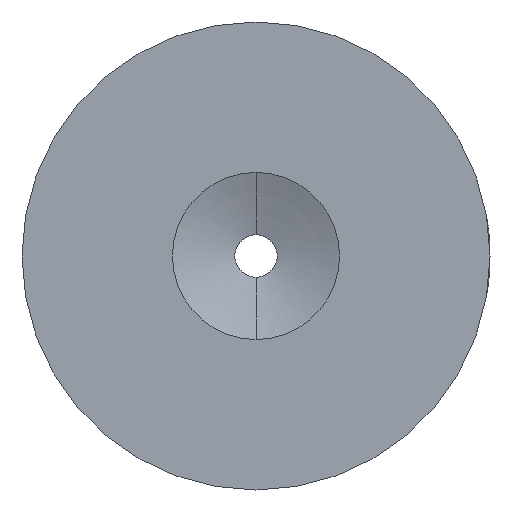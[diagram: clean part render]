
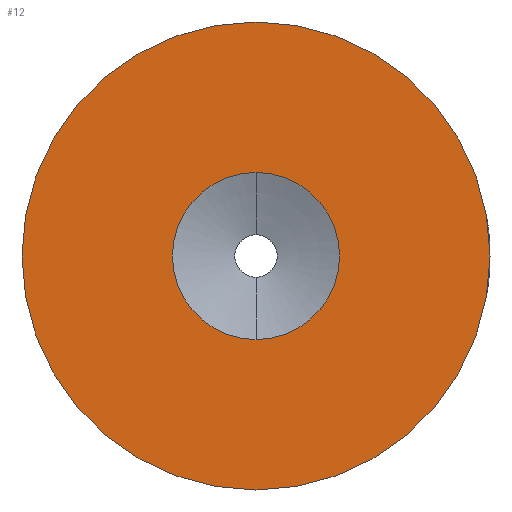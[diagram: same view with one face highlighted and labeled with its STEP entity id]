
A CAD part, left-side view. The second image highlights one B-rep face of the part: STEP entity #12.
In plain terms, the highlighted planar face has unit normal (-1, 0, 0).
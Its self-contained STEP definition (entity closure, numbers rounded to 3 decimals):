
#6 = PLANE ( 'NONE',  #502 ) ;
#12 = ADVANCED_FACE ( 'NONE', ( #427, #382 ), #6, .F. ) ;
#52 = EDGE_CURVE ( 'NONE', #416, #496, #395, .T. ) ;
#70 = CARTESIAN_POINT ( 'NONE',  ( 0., 1.25, 0. ) ) ;
#90 = CARTESIAN_POINT ( 'NONE',  ( 0., 0., 0. ) ) ;
#91 = DIRECTION ( 'NONE',  ( 1., 0., 0. ) ) ;
#109 = CARTESIAN_POINT ( 'NONE',  ( 0., 0., 14. ) ) ;
#110 = CARTESIAN_POINT ( 'NONE',  ( 0., 0., -14. ) ) ;
#113 = ORIENTED_EDGE ( 'NONE', *, *, #303, .T. ) ;
#136 = AXIS2_PLACEMENT_3D ( 'NONE', #269, #456, #417 ) ;
#148 = EDGE_CURVE ( 'NONE', #222, #270, #441, .T. ) ;
#167 = DIRECTION ( 'NONE',  ( -1., 0., 0. ) ) ;
#175 = DIRECTION ( 'NONE',  ( 0., 0., -1. ) ) ;
#185 = CARTESIAN_POINT ( 'NONE',  ( 0., 0., -5. ) ) ;
#188 = EDGE_CURVE ( 'NONE', #496, #416, #305, .T. ) ;
#213 = ORIENTED_EDGE ( 'NONE', *, *, #148, .T. ) ;
#220 = DIRECTION ( 'NONE',  ( -1., 0., 0. ) ) ;
#222 = VERTEX_POINT ( 'NONE', #109 ) ;
#250 = AXIS2_PLACEMENT_3D ( 'NONE', #426, #334, #508 ) ;
#253 = EDGE_LOOP ( 'NONE', ( #213, #113 ) ) ;
#269 = CARTESIAN_POINT ( 'NONE',  ( 0., 0., 0. ) ) ;
#270 = VERTEX_POINT ( 'NONE', #110 ) ;
#303 = EDGE_CURVE ( 'NONE', #270, #222, #473, .T. ) ;
#305 = CIRCLE ( 'NONE', #450, 5. ) ;
#334 = DIRECTION ( 'NONE',  ( -1., 0., 0. ) ) ;
#335 = ORIENTED_EDGE ( 'NONE', *, *, #188, .F. ) ;
#357 = CARTESIAN_POINT ( 'NONE',  ( 0., 0., 5. ) ) ;
#367 = ORIENTED_EDGE ( 'NONE', *, *, #52, .F. ) ;
#373 = DIRECTION ( 'NONE',  ( 0., 0., 1. ) ) ;
#382 = FACE_OUTER_BOUND ( 'NONE', #253, .T. ) ;
#387 = EDGE_LOOP ( 'NONE', ( #335, #367 ) ) ;
#388 = AXIS2_PLACEMENT_3D ( 'NONE', #90, #220, #534 ) ;
#395 = CIRCLE ( 'NONE', #250, 5. ) ;
#416 = VERTEX_POINT ( 'NONE', #185 ) ;
#417 = DIRECTION ( 'NONE',  ( 0., 0., 1. ) ) ;
#426 = CARTESIAN_POINT ( 'NONE',  ( 0., 0., 0. ) ) ;
#427 = FACE_BOUND ( 'NONE', #387, .T. ) ;
#441 = CIRCLE ( 'NONE', #136, 14. ) ;
#450 = AXIS2_PLACEMENT_3D ( 'NONE', #466, #167, #373 ) ;
#456 = DIRECTION ( 'NONE',  ( -1., 0., 0. ) ) ;
#466 = CARTESIAN_POINT ( 'NONE',  ( 0., 0., 0. ) ) ;
#473 = CIRCLE ( 'NONE', #388, 14. ) ;
#496 = VERTEX_POINT ( 'NONE', #357 ) ;
#502 = AXIS2_PLACEMENT_3D ( 'NONE', #70, #91, #175 ) ;
#508 = DIRECTION ( 'NONE',  ( 0., 0., 1. ) ) ;
#534 = DIRECTION ( 'NONE',  ( 0., 0., 1. ) ) ;
